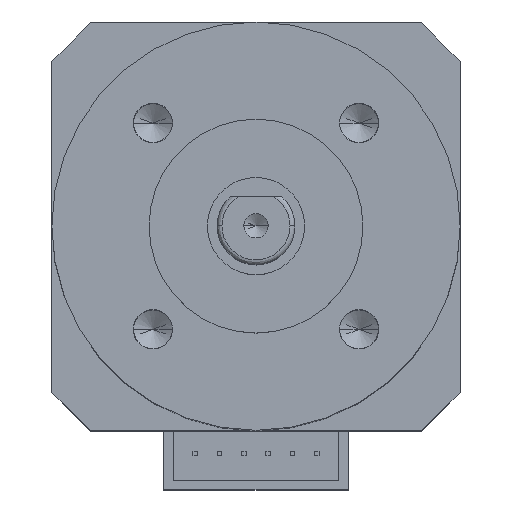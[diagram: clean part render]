
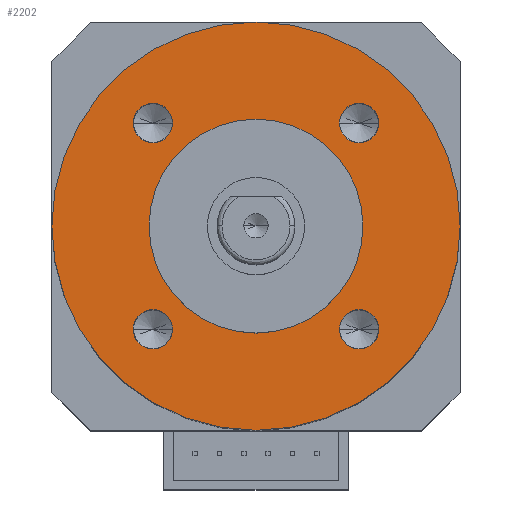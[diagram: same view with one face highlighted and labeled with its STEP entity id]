
A CAD part, top view. The second image highlights one B-rep face of the part: STEP entity #2202.
In plain terms, the highlighted planar face has unit normal (0, 0, 1).
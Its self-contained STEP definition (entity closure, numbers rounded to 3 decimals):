
#38 = CARTESIAN_POINT ( 'NONE',  ( -10.607, 10.607, 0. ) ) ;
#117 = DIRECTION ( 'NONE',  ( 1., 0., 0. ) ) ;
#137 = ORIENTED_EDGE ( 'NONE', *, *, #2079, .F. ) ;
#164 = CIRCLE ( 'NONE', #2770, 2.025 ) ;
#179 = DIRECTION ( 'NONE',  ( 0., 0., 1. ) ) ;
#220 = VERTEX_POINT ( 'NONE', #318 ) ;
#226 = DIRECTION ( 'NONE',  ( 0., 0., 1. ) ) ;
#231 = CARTESIAN_POINT ( 'NONE',  ( 12.632, 10.607, 0. ) ) ;
#318 = CARTESIAN_POINT ( 'NONE',  ( 8.582, -10.607, 0. ) ) ;
#335 = DIRECTION ( 'NONE',  ( 0., 0., 1. ) ) ;
#341 = CARTESIAN_POINT ( 'NONE',  ( 0., 0., 0. ) ) ;
#343 = EDGE_CURVE ( 'NONE', #1475, #2748, #2785, .T. ) ;
#351 = DIRECTION ( 'NONE',  ( 0., 0., 1. ) ) ;
#357 = CARTESIAN_POINT ( 'NONE',  ( -12.632, 10.607, 0. ) ) ;
#359 = ORIENTED_EDGE ( 'NONE', *, *, #3258, .F. ) ;
#376 = DIRECTION ( 'NONE',  ( 0., 0., 1. ) ) ;
#461 = ORIENTED_EDGE ( 'NONE', *, *, #1431, .F. ) ;
#532 = AXIS2_PLACEMENT_3D ( 'NONE', #1906, #179, #1054 ) ;
#591 = DIRECTION ( 'NONE',  ( 1., 0., 0. ) ) ;
#626 = CARTESIAN_POINT ( 'NONE',  ( 12.632, -10.607, 0. ) ) ;
#659 = CARTESIAN_POINT ( 'NONE',  ( -8.582, 10.607, 0. ) ) ;
#667 = VERTEX_POINT ( 'NONE', #231 ) ;
#676 = DIRECTION ( 'NONE',  ( 0., 0., 1. ) ) ;
#729 = DIRECTION ( 'NONE',  ( 0., 0., 1. ) ) ;
#770 = ORIENTED_EDGE ( 'NONE', *, *, #3579, .F. ) ;
#828 = CARTESIAN_POINT ( 'NONE',  ( 10.607, 10.607, 0. ) ) ;
#837 = EDGE_LOOP ( 'NONE', ( #461, #359 ) ) ;
#858 = EDGE_CURVE ( 'NONE', #3685, #1534, #3436, .T. ) ;
#876 = CARTESIAN_POINT ( 'NONE',  ( -21., -21., 0. ) ) ;
#918 = DIRECTION ( 'NONE',  ( 0., 0., -1. ) ) ;
#920 = AXIS2_PLACEMENT_3D ( 'NONE', #1284, #3259, #1577 ) ;
#940 = DIRECTION ( 'NONE',  ( 1., 0., 0. ) ) ;
#986 = CARTESIAN_POINT ( 'NONE',  ( 0., 0., 0. ) ) ;
#998 = AXIS2_PLACEMENT_3D ( 'NONE', #2853, #2317, #591 ) ;
#1048 = ORIENTED_EDGE ( 'NONE', *, *, #3520, .F. ) ;
#1054 = DIRECTION ( 'NONE',  ( 1., 0., 0. ) ) ;
#1138 = FACE_BOUND ( 'NONE', #2141, .T. ) ;
#1252 = ORIENTED_EDGE ( 'NONE', *, *, #3602, .F. ) ;
#1254 = CARTESIAN_POINT ( 'NONE',  ( -10.607, -10.607, 0. ) ) ;
#1284 = CARTESIAN_POINT ( 'NONE',  ( 10.607, -10.607, 0. ) ) ;
#1431 = EDGE_CURVE ( 'NONE', #667, #3552, #2121, .T. ) ;
#1458 = CIRCLE ( 'NONE', #920, 2.025 ) ;
#1475 = VERTEX_POINT ( 'NONE', #1560 ) ;
#1486 = VERTEX_POINT ( 'NONE', #626 ) ;
#1494 = DIRECTION ( 'NONE',  ( -1., 0., 0. ) ) ;
#1501 = DIRECTION ( 'NONE',  ( 0., 0., -1. ) ) ;
#1520 = DIRECTION ( 'NONE',  ( 1., 0., 0. ) ) ;
#1521 = AXIS2_PLACEMENT_3D ( 'NONE', #2331, #3492, #2716 ) ;
#1534 = VERTEX_POINT ( 'NONE', #1692 ) ;
#1540 = FACE_BOUND ( 'NONE', #837, .T. ) ;
#1560 = CARTESIAN_POINT ( 'NONE',  ( -11., 0., 0. ) ) ;
#1577 = DIRECTION ( 'NONE',  ( 1., 0., 0. ) ) ;
#1592 = AXIS2_PLACEMENT_3D ( 'NONE', #341, #1501, #940 ) ;
#1692 = CARTESIAN_POINT ( 'NONE',  ( -21., 0., 0. ) ) ;
#1727 = EDGE_CURVE ( 'NONE', #2007, #2192, #2295, .T. ) ;
#1729 = PLANE ( 'NONE',  #3326 ) ;
#1877 = CARTESIAN_POINT ( 'NONE',  ( -12.632, -10.607, 0. ) ) ;
#1887 = FACE_BOUND ( 'NONE', #2806, .T. ) ;
#1906 = CARTESIAN_POINT ( 'NONE',  ( 10.607, -10.607, 0. ) ) ;
#1916 = EDGE_LOOP ( 'NONE', ( #770, #1048 ) ) ;
#1924 = FACE_OUTER_BOUND ( 'NONE', #3377, .T. ) ;
#1943 = EDGE_CURVE ( 'NONE', #1486, #220, #1458, .T. ) ;
#1983 = CIRCLE ( 'NONE', #3641, 2.025 ) ;
#2007 = VERTEX_POINT ( 'NONE', #1877 ) ;
#2079 = EDGE_CURVE ( 'NONE', #220, #1486, #2515, .T. ) ;
#2121 = CIRCLE ( 'NONE', #2224, 2.025 ) ;
#2141 = EDGE_LOOP ( 'NONE', ( #2837, #1252 ) ) ;
#2192 = VERTEX_POINT ( 'NONE', #3426 ) ;
#2202 = ADVANCED_FACE ( 'NONE', ( #2291, #1540, #2946, #1887, #1924, #1138 ), #1729, .F. ) ;
#2224 = AXIS2_PLACEMENT_3D ( 'NONE', #2887, #335, #2922 ) ;
#2233 = ORIENTED_EDGE ( 'NONE', *, *, #2379, .F. ) ;
#2237 = ORIENTED_EDGE ( 'NONE', *, *, #2409, .F. ) ;
#2291 = FACE_BOUND ( 'NONE', #1916, .T. ) ;
#2295 = CIRCLE ( 'NONE', #998, 2.025 ) ;
#2317 = DIRECTION ( 'NONE',  ( 0., 0., 1. ) ) ;
#2329 = AXIS2_PLACEMENT_3D ( 'NONE', #2964, #729, #2693 ) ;
#2331 = CARTESIAN_POINT ( 'NONE',  ( -10.607, 10.607, 0. ) ) ;
#2379 = EDGE_CURVE ( 'NONE', #1534, #3685, #3380, .T. ) ;
#2409 = EDGE_CURVE ( 'NONE', #2192, #2007, #2767, .T. ) ;
#2515 = CIRCLE ( 'NONE', #532, 2.025 ) ;
#2610 = CARTESIAN_POINT ( 'NONE',  ( 8.582, 10.607, 0. ) ) ;
#2693 = DIRECTION ( 'NONE',  ( -1., 0., 0. ) ) ;
#2716 = DIRECTION ( 'NONE',  ( 1., 0., 0. ) ) ;
#2736 = CIRCLE ( 'NONE', #1521, 2.025 ) ;
#2748 = VERTEX_POINT ( 'NONE', #3110 ) ;
#2767 = CIRCLE ( 'NONE', #2908, 2.025 ) ;
#2770 = AXIS2_PLACEMENT_3D ( 'NONE', #828, #226, #3638 ) ;
#2785 = CIRCLE ( 'NONE', #3349, 11. ) ;
#2806 = EDGE_LOOP ( 'NONE', ( #2237, #2977 ) ) ;
#2837 = ORIENTED_EDGE ( 'NONE', *, *, #343, .F. ) ;
#2853 = CARTESIAN_POINT ( 'NONE',  ( -10.607, -10.607, 0. ) ) ;
#2887 = CARTESIAN_POINT ( 'NONE',  ( 10.607, 10.607, 0. ) ) ;
#2908 = AXIS2_PLACEMENT_3D ( 'NONE', #1254, #376, #1520 ) ;
#2922 = DIRECTION ( 'NONE',  ( 1., 0., 0. ) ) ;
#2937 = VERTEX_POINT ( 'NONE', #357 ) ;
#2943 = DIRECTION ( 'NONE',  ( -1., 0., 0. ) ) ;
#2946 = FACE_BOUND ( 'NONE', #3637, .T. ) ;
#2964 = CARTESIAN_POINT ( 'NONE',  ( 0., 0., 0. ) ) ;
#2977 = ORIENTED_EDGE ( 'NONE', *, *, #1727, .F. ) ;
#3025 = VERTEX_POINT ( 'NONE', #659 ) ;
#3110 = CARTESIAN_POINT ( 'NONE',  ( 11., 0., 0. ) ) ;
#3220 = CIRCLE ( 'NONE', #2329, 11. ) ;
#3226 = DIRECTION ( 'NONE',  ( 0., 0., -1. ) ) ;
#3240 = CARTESIAN_POINT ( 'NONE',  ( 21., 0., 0. ) ) ;
#3258 = EDGE_CURVE ( 'NONE', #3552, #667, #164, .T. ) ;
#3259 = DIRECTION ( 'NONE',  ( 0., 0., 1. ) ) ;
#3263 = AXIS2_PLACEMENT_3D ( 'NONE', #986, #3226, #117 ) ;
#3326 = AXIS2_PLACEMENT_3D ( 'NONE', #876, #918, #1494 ) ;
#3349 = AXIS2_PLACEMENT_3D ( 'NONE', #3477, #676, #2943 ) ;
#3377 = EDGE_LOOP ( 'NONE', ( #3565, #2233 ) ) ;
#3380 = CIRCLE ( 'NONE', #3263, 21. ) ;
#3426 = CARTESIAN_POINT ( 'NONE',  ( -8.582, -10.607, 0. ) ) ;
#3436 = CIRCLE ( 'NONE', #1592, 21. ) ;
#3467 = DIRECTION ( 'NONE',  ( 1., 0., 0. ) ) ;
#3477 = CARTESIAN_POINT ( 'NONE',  ( 0., 0., 0. ) ) ;
#3492 = DIRECTION ( 'NONE',  ( 0., 0., 1. ) ) ;
#3520 = EDGE_CURVE ( 'NONE', #2937, #3025, #1983, .T. ) ;
#3552 = VERTEX_POINT ( 'NONE', #2610 ) ;
#3565 = ORIENTED_EDGE ( 'NONE', *, *, #858, .F. ) ;
#3568 = ORIENTED_EDGE ( 'NONE', *, *, #1943, .F. ) ;
#3579 = EDGE_CURVE ( 'NONE', #3025, #2937, #2736, .T. ) ;
#3602 = EDGE_CURVE ( 'NONE', #2748, #1475, #3220, .T. ) ;
#3637 = EDGE_LOOP ( 'NONE', ( #3568, #137 ) ) ;
#3638 = DIRECTION ( 'NONE',  ( 1., 0., 0. ) ) ;
#3641 = AXIS2_PLACEMENT_3D ( 'NONE', #38, #351, #3467 ) ;
#3685 = VERTEX_POINT ( 'NONE', #3240 ) ;
